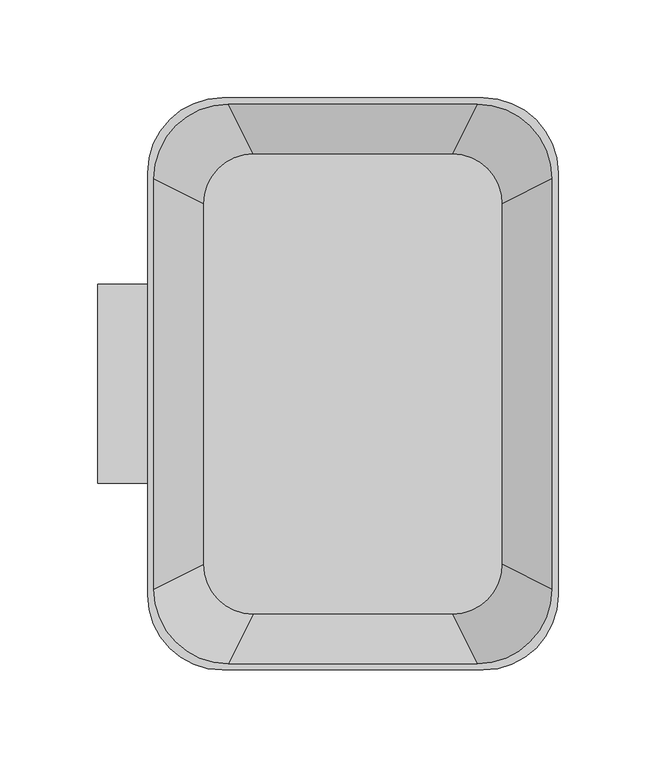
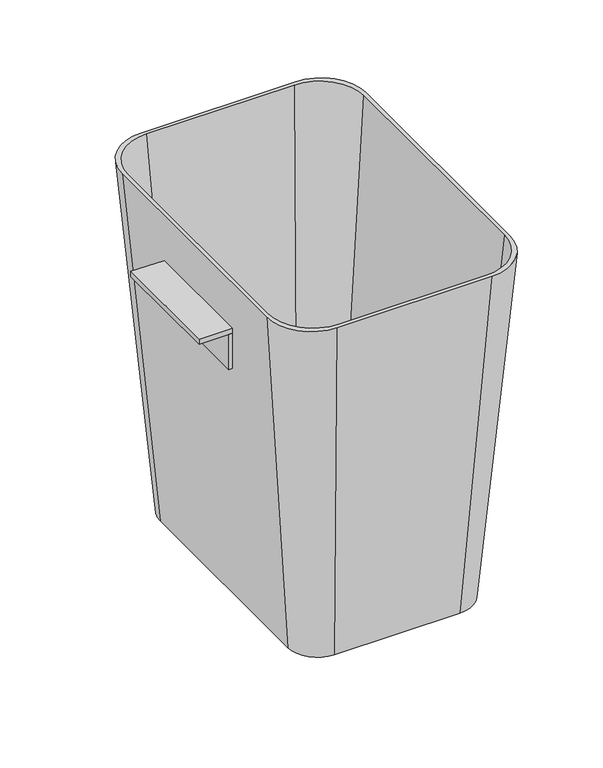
"""IFC4 building model written with IfcOpenShell, lengths in millimetres: furniture geometry, HermanMiller_Carts_CT728_WastebasketAndHolder : 12H x 8D x 11W."""

from ifc_helpers import new_model, si_unit, frame, origin, place, context, project, spatial, polyline, circle_curve, outline, extrude, source, transform, mapped, element, save
from ifc_brep_helpers import plane_surface, spline_surface, advanced_brep


def furniture_bacf119b(model_context):
    return source(origin(), model_context, "Body", "SolidModel", [
        extrude(outline(polyline([(-86.0372951, -95.25), (-82.8622951, -95.25), (-82.8622951, -196.85), (-86.0372951, -196.85), (-86.0372951, -95.25)])), frame((0.0, 0.0, 452.12), z_axis=(0.0, 0.0, 1.0), x_axis=(1.0, 0.0, 0.0)), (0.0, 0.0, 1.0), 31.75),
        extrude(outline(polyline([(-82.8622951, -95.25), (-82.8622951, -196.85), (-111.4372951, -196.85), (-111.4372951, -95.25), (-82.8622951, -95.25)])), frame((0.0, 0.0, 483.87), z_axis=(0.0, 0.0, 1.0), x_axis=(1.0, 0.0, 0.0)), (0.0, 0.0, 1.0), 4.7625),
        advanced_brep(
        [(72.7127049, -25.4, 217.17), (98.1127049, -50.8, 217.17), (98.1127049, -241.3, 217.17), (72.7127049, -266.7, 217.17), (-35.2372951, -266.7, 217.17), (-60.6372951, -241.3, 217.17), (-60.6372951, -50.8, 217.17), (-35.2372951, -25.4, 217.17), (85.4127049, 0.0, 534.67), (-47.9372951, 0.0, 534.67), (-86.0372951, -38.1, 534.67), (-86.0372951, -254.0, 534.67), (-47.9372951, -292.1, 534.67), (85.4127049, -292.1, 534.67), (123.5127049, -254.0, 534.67), (123.5127049, -38.1, 534.67), (-44.7622951, -3.175, 534.67), (82.2377049, -3.175, 534.67), (120.3377049, -41.275, 534.67), (120.3377049, -250.825, 534.67), (82.2377049, -288.925, 534.67), (-44.7622951, -288.925, 534.67), (-82.8622951, -250.825, 534.67), (-82.8622951, -41.275, 534.67), (69.5377049, -28.575, 223.52), (-32.0622951, -28.575, 223.52), (-57.4622951, -53.975, 223.52), (-57.4622951, -238.125, 223.52), (-32.0622951, -263.525, 223.52), (69.5377049, -263.525, 223.52), (94.9377049, -238.125, 223.52), (94.9377049, -53.975, 223.52)],
        [
            (0, 1, circle_curve(frame((72.7127049, -50.8, 217.17), z_axis=(0.0, 0.0, -1.0), x_axis=(0.0, -1.0, 0.0)), 25.4)),
            (1, 2),
            (2, 3, circle_curve(frame((72.7127049, -241.3, 217.17), z_axis=(0.0, 0.0, -1.0), x_axis=(0.0, -1.0, 0.0)), 25.4)),
            (3, 4),
            (4, 5, circle_curve(frame((-35.2372951, -241.3, 217.17), z_axis=(0.0, 0.0, -1.0), x_axis=(0.0, -1.0, 0.0)), 25.4)),
            (5, 6),
            (6, 7, circle_curve(frame((-35.2372951, -50.8, 217.17), z_axis=(0.0, 0.0, -1.0), x_axis=(0.0, -1.0, 0.0)), 25.4)),
            (7, 0),
            (8, 9),
            (9, 10, circle_curve(frame((-47.9372951, -38.1, 534.67), z_axis=(0.0, 0.0, 1.0), x_axis=(0.0, -1.0, 0.0)), 38.1)),
            (10, 11),
            (11, 12, circle_curve(frame((-47.9372951, -254.0, 534.67), z_axis=(0.0, 0.0, 1.0), x_axis=(0.0, -1.0, 0.0)), 38.1)),
            (12, 13),
            (13, 14, circle_curve(frame((85.4127049, -254.0, 534.67), z_axis=(0.0, 0.0, 1.0), x_axis=(0.0, -1.0, 0.0)), 38.1)),
            (14, 15),
            (15, 8, circle_curve(frame((85.4127049, -38.1, 534.67), z_axis=(0.0, 0.0, 1.0), x_axis=(0.0, -1.0, 0.0)), 38.1)),
            (16, 17),
            (17, 18, circle_curve(frame((82.2377049, -41.275, 534.67), z_axis=(0.0, 0.0, -1.0), x_axis=(-1.0, 0.0, 0.0)), 38.1)),
            (18, 19),
            (19, 20, circle_curve(frame((82.2377049, -250.825, 534.67), z_axis=(0.0, 0.0, -1.0), x_axis=(-1.0, 0.0, 0.0)), 38.1)),
            (20, 21),
            (21, 22, circle_curve(frame((-44.7622951, -250.825, 534.67), z_axis=(0.0, 0.0, -1.0), x_axis=(-1.0, 0.0, 0.0)), 38.1)),
            (22, 23),
            (23, 16, circle_curve(frame((-44.7622951, -41.275, 534.67), z_axis=(0.0, 0.0, -1.0), x_axis=(-1.0, 0.0, 0.0)), 38.1)),
            (7, 9),
            (8, 0),
            (6, 10),
            (5, 11),
            (4, 12),
            (3, 13),
            (2, 14),
            (1, 15),
            (24, 25),
            (25, 26, circle_curve(frame((-32.0622951, -53.975, 223.52), z_axis=(0.0, 0.0, 1.0), x_axis=(-1.0, 0.0, 0.0)), 25.4)),
            (26, 27),
            (27, 28, circle_curve(frame((-32.0622951, -238.125, 223.52), z_axis=(0.0, 0.0, 1.0), x_axis=(-1.0, 0.0, 0.0)), 25.4)),
            (28, 29),
            (29, 30, circle_curve(frame((69.5377049, -238.125, 223.52), z_axis=(0.0, 0.0, 1.0), x_axis=(-1.0, 0.0, 0.0)), 25.4)),
            (30, 31),
            (31, 24, circle_curve(frame((69.5377049, -53.975, 223.52), z_axis=(0.0, 0.0, 1.0), x_axis=(-1.0, 0.0, 0.0)), 25.4)),
            (24, 17),
            (16, 25),
            (23, 26),
            (22, 27),
            (21, 28),
            (20, 29),
            (19, 30),
            (18, 31),
        ],
        [
            plane_surface(frame((18.7377049, -146.05, 217.17), z_axis=(0.0, 0.0, -1.0), x_axis=(-1.0, 0.0, 0.0))),
            plane_surface(frame((18.7377049, -146.05, 534.67), z_axis=(0.0, 0.0, 1.0), x_axis=(-1.0, 0.0, 0.0))),
            plane_surface(frame((18.7377049, 0.0, 534.67), z_axis=(0.0, 0.9968152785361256, -0.07974522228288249), x_axis=(1.0, 0.0, 0.0))),
            spline_surface(2, 1, [[(-86.0372951, -38.1, 534.67), (-60.6372951, -50.8, 217.17)], [(-86.0372951, -7.105427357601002e-15, 534.67), (-60.637295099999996, -25.39999999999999, 217.17)], [(-47.9372951, 0.0, 534.67), (-35.2372951, -25.4, 217.17)]], [3, 3], [2, 2], [0.0, 1.0], [0.0, 1.0], weights=[[1.0, 1.0], [0.7071067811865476, 0.7071067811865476], [1.0, 1.0]]),
            plane_surface(frame((-86.0372951, -146.05, 534.67), z_axis=(-0.9968152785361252, 0.0, -0.07974522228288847), x_axis=(0.0, 1.0, 0.0))),
            spline_surface(2, 1, [[(-47.9372951, -292.1, 534.67), (-35.2372951, -266.7, 217.17)], [(-86.03729510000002, -292.1000000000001, 534.67), (-60.637295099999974, -266.7, 217.17)], [(-86.0372951, -254.0, 534.67), (-60.6372951, -241.3, 217.17)]], [3, 3], [2, 2], [0.0, 1.0], [0.0, 1.0], weights=[[1.0, 1.0], [0.7071067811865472, 0.7071067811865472], [1.0, 1.0]]),
            plane_surface(frame((18.7377049, -292.1, 534.67), z_axis=(0.0, -0.9968152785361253, -0.07974522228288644), x_axis=(-1.0, 0.0, 0.0))),
            spline_surface(2, 1, [[(123.5127049, -254.0, 534.67), (98.1127049, -241.3, 217.17)], [(123.51270489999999, -292.1, 534.67), (98.11270489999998, -266.7, 217.17)], [(85.4127049, -292.1, 534.67), (72.7127049, -266.7, 217.17)]], [3, 3], [2, 2], [0.0, 1.0], [0.0, 1.0], weights=[[1.0, 1.0], [0.7071067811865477, 0.7071067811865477], [1.0, 1.0]]),
            plane_surface(frame((123.5127049, -146.05, 534.67), z_axis=(0.9968152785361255, 0.0, -0.07974522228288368), x_axis=(0.0, -1.0, 0.0))),
            spline_surface(2, 1, [[(85.4127049, 0.0, 534.67), (72.7127049, -25.4, 217.17)], [(123.51270489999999, -7.105427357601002e-15, 534.67), (98.11270490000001, -25.400000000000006, 217.17)], [(123.5127049, -38.1, 534.67), (98.1127049, -50.8, 217.17)]], [3, 3], [2, 2], [0.0, 1.0], [0.0, 1.0], weights=[[1.0, 1.0], [0.7071067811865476, 0.7071067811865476], [1.0, 1.0]]),
            plane_surface(frame((18.7377049, -146.05, 223.52), z_axis=(0.0, 0.0, 1.0), x_axis=(-1.0, 0.0, 0.0))),
            plane_surface(frame((18.7377049, -3.175, 534.67), z_axis=(0.0, -0.9966846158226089, 0.08136200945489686), x_axis=(1.0, 0.0, 0.0))),
            spline_surface(1, 2, [[(-82.8622951, -41.275, 534.67), (-82.86229509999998, -3.1750000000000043, 534.67), (-44.7622951, -3.175, 534.67)], [(-57.4622951, -53.975, 223.52), (-57.46229509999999, -28.575000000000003, 223.52), (-32.0622951, -28.575, 223.52)]], [2, 2], [3, 3], [0.0, 1.0], [0.0, 1.0], weights=[[1.0, 0.7071067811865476, 1.0], [1.0, 0.7071067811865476, 1.0]]),
            plane_surface(frame((-82.8622951, -146.05, 534.67), z_axis=(0.9966846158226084, 0.0, 0.0813620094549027), x_axis=(0.0, 1.0, 0.0))),
            spline_surface(1, 2, [[(-44.7622951, -288.925, 534.67), (-82.86229510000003, -288.92500000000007, 534.67), (-82.8622951, -250.825, 534.67)], [(-32.0622951, -263.525, 223.52), (-57.46229509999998, -263.525, 223.52), (-57.4622951, -238.125, 223.52)]], [2, 2], [3, 3], [0.0, 1.0], [0.0, 1.0], weights=[[1.0, 0.7071067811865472, 1.0], [1.0, 0.7071067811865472, 1.0]]),
            plane_surface(frame((18.7377049, -288.925, 534.67), z_axis=(0.0, 0.9966846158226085, 0.0813620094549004), x_axis=(-1.0, 0.0, 0.0))),
            spline_surface(1, 2, [[(120.3377049, -250.825, 534.67), (120.33770489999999, -288.925, 534.67), (82.2377049, -288.925, 534.67)], [(94.9377049, -238.125, 223.52), (94.93770489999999, -263.525, 223.52), (69.5377049, -263.525, 223.52)]], [2, 2], [3, 3], [0.0, 1.0], [0.0, 1.0], weights=[[1.0, 0.7071067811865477, 1.0], [1.0, 0.7071067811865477, 1.0]]),
            plane_surface(frame((120.3377049, -146.05, 534.67), z_axis=(-0.9966846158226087, 0.0, 0.08136200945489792), x_axis=(0.0, -1.0, 0.0))),
            spline_surface(1, 2, [[(82.2377049, -3.175, 534.67), (120.3377049, -3.1750000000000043, 534.67), (120.3377049, -41.275, 534.67)], [(69.5377049, -28.575, 223.52), (94.9377049, -28.575000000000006, 223.52), (94.9377049, -53.975, 223.52)]], [2, 2], [3, 3], [0.0, 1.0], [0.0, 1.0], weights=[[1.0, 0.7071067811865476, 1.0], [1.0, 0.7071067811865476, 1.0]]),
        ],
        [
            (0, [[1, 2, 3, 4, 5, 6, 7, 8]]),
            (1, [[9, 10, 11, 12, 13, 14, 15, 16], [17, 18, 19, 20, 21, 22, 23, 24]]),
            (2, [[-8, 25, -9, 26]]),
            (3, [[-7, 27, -10, -25]]),
            (4, [[-6, 28, -11, -27]]),
            (5, [[-5, 29, -12, -28]]),
            (6, [[-4, 30, -13, -29]]),
            (7, [[-3, 31, -14, -30]]),
            (8, [[-2, 32, -15, -31]]),
            (9, [[-1, -26, -16, -32]]),
            (10, [[33, 34, 35, 36, 37, 38, 39, 40]]),
            (11, [[-33, 41, -17, 42]]),
            (12, [[-34, -42, -24, 43]]),
            (13, [[-35, -43, -23, 44]]),
            (14, [[-36, -44, -22, 45]]),
            (15, [[-37, -45, -21, 46]]),
            (16, [[-38, -46, -20, 47]]),
            (17, [[-39, -47, -19, 48]]),
            (18, [[-40, -48, -18, -41]]),
        ],
    ),
    ])


if __name__ == "__main__":
    model = new_model("IFC4")
    model_context = context("Model", 3, world=origin())
    ifc_project = project(units=[si_unit("LENGTHUNIT", "METRE", prefix="MILLI")], contexts=[model_context])
    site = spatial("IfcSite", under=ifc_project)
    building = spatial("IfcBuilding", under=site)
    placement = place(None, origin())
    furniture_shape = furniture_bacf119b(model_context)
    element("IfcFurniture", 1, ObjectType="HermanMiller_Carts_CT728_WastebasketAndHolder : 12H x 8D x 11W", at=placement, inside=building, context=model_context, shape_type="MappedRepresentation", body=[
        mapped(furniture_shape, transform((0.0, 0.0, 0.0), x_axis=(1.0, 0.0, 0.0), y_axis=(0.0, 1.0, 0.0), z_axis=(0.0, 0.0, 1.0))),
    ])
    save(model, "model.ifc")
